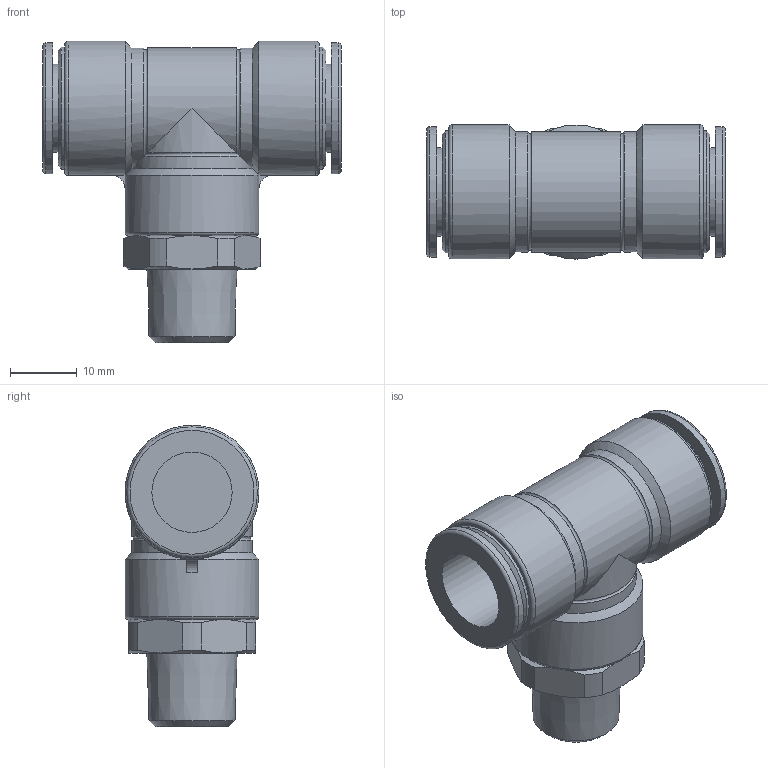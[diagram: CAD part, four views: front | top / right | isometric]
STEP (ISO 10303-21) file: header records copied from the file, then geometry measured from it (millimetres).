
FILE_DESCRIPTION(/* description */ (''),/* implementation_level */ '2;1');
FILE_NAME(/* name */ 'E:\2013年度版　3D-DATA\【02】 TOUCH CONNECTOR FIVE SUS\[03] MALE BRANCH TEE\[15] FS12-02MT FS12-02MTW.stp',/* time_stamp */ '2013-08-06T16:52:03+09:00',/* author */ ('takahashi-pc2'),/* organization */ (''),/* preprocessor_version */ 'ST-DEVELOPER v15.2',/* originating_system */ 'Autodesk Inventor 2014',/* authorisation */ '');
FILE_SCHEMA (('AUTOMOTIVE_DESIGN { 1 0 10303 214 3 1 1 }'));
Length unit declared in the file: millimetre
Products named in the file (1): [15] FS12-02MT FS12-02MTW
Bounding box: 44.6 x 20 x 45 mm (x, y, z)
Volume: 15366.5 mm3; surface area: 6635.5 mm2
Topology: 1 solids, 1 shells, 85 faces, 193 edges, 119 vertices
Faces by surface type: plane 30, cylinder 26, cone 20, torus 9
Full cylindrical faces by diameter (mm): 12 x2, 13.2 x2, 18.2 x2, 19.5 x2, 20 x3
Entity records: 2335 total; most frequent: CARTESIAN_POINT 528, DIRECTION 392, ORIENTED_EDGE 344, AXIS2_PLACEMENT_3D 174, EDGE_CURVE 172, VERTEX_POINT 118, EDGE_LOOP 114, ADVANCED_FACE 85
